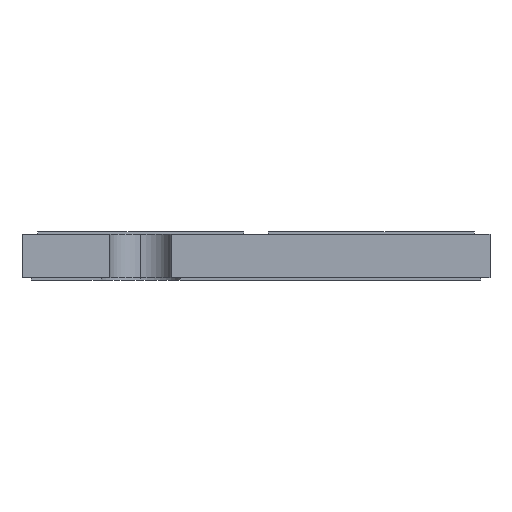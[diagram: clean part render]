
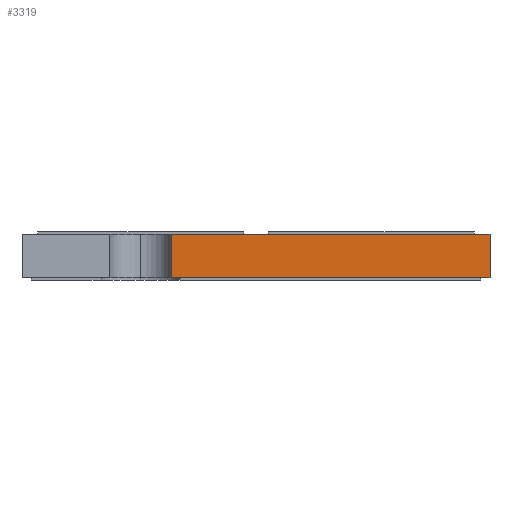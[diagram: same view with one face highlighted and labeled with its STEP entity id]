
A CAD part, left-side view. The second image highlights one B-rep face of the part: STEP entity #3319.
In plain terms, the highlighted planar face has unit normal (-1, 0, 0).
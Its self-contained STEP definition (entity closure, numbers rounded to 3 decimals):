
#84 = FACE_OUTER_BOUND ( 'NONE', #7691, .T. ) ;
#182 = CARTESIAN_POINT ( 'NONE',  ( -13.75, -3.75, -0.7 ) ) ;
#344 = CARTESIAN_POINT ( 'NONE',  ( -13.75, 3.75, -0.7 ) ) ;
#500 = VERTEX_POINT ( 'NONE', #7854 ) ;
#634 = VECTOR ( 'NONE', #4042, 1000. ) ;
#707 = VECTOR ( 'NONE', #2277, 1000. ) ;
#731 = LINE ( 'NONE', #182, #1483 ) ;
#1465 = ORIENTED_EDGE ( 'NONE', *, *, #7772, .F. ) ;
#1483 = VECTOR ( 'NONE', #6387, 1000. ) ;
#1536 = EDGE_CURVE ( 'NONE', #3447, #3954, #7231, .T. ) ;
#1610 = ORIENTED_EDGE ( 'NONE', *, *, #1536, .F. ) ;
#2277 = DIRECTION ( 'NONE',  ( 0., -1., 0. ) ) ;
#2536 = CARTESIAN_POINT ( 'NONE',  ( -13.75, 1.35, 0. ) ) ;
#2878 = CARTESIAN_POINT ( 'NONE',  ( -13.75, -3.75, -0.7 ) ) ;
#3064 = AXIS2_PLACEMENT_3D ( 'NONE', #7904, #3768, #8619 ) ;
#3319 = ADVANCED_FACE ( 'NONE', ( #84 ), #6556, .T. ) ;
#3447 = VERTEX_POINT ( 'NONE', #8711 ) ;
#3768 = DIRECTION ( 'NONE',  ( -1., 0., 0. ) ) ;
#3890 = EDGE_CURVE ( 'NONE', #3447, #7328, #5971, .T. ) ;
#3954 = VERTEX_POINT ( 'NONE', #8005 ) ;
#4042 = DIRECTION ( 'NONE',  ( 0., -1., 0. ) ) ;
#5942 = DIRECTION ( 'NONE',  ( 0., 0., 1. ) ) ;
#5971 = LINE ( 'NONE', #344, #707 ) ;
#5984 = CARTESIAN_POINT ( 'NONE',  ( -13.75, 3.75, 0. ) ) ;
#6387 = DIRECTION ( 'NONE',  ( 0., 0., 1. ) ) ;
#6556 = PLANE ( 'NONE',  #3064 ) ;
#6758 = ORIENTED_EDGE ( 'NONE', *, *, #3890, .T. ) ;
#6863 = LINE ( 'NONE', #5984, #634 ) ;
#7231 = LINE ( 'NONE', #2536, #8866 ) ;
#7328 = VERTEX_POINT ( 'NONE', #2878 ) ;
#7691 = EDGE_LOOP ( 'NONE', ( #1610, #6758, #8009, #1465 ) ) ;
#7772 = EDGE_CURVE ( 'NONE', #3954, #500, #6863, .T. ) ;
#7854 = CARTESIAN_POINT ( 'NONE',  ( -13.75, -3.75, 0. ) ) ;
#7904 = CARTESIAN_POINT ( 'NONE',  ( -13.75, 3.75, -0.7 ) ) ;
#8005 = CARTESIAN_POINT ( 'NONE',  ( -13.75, 1.35, 0. ) ) ;
#8009 = ORIENTED_EDGE ( 'NONE', *, *, #8519, .T. ) ;
#8519 = EDGE_CURVE ( 'NONE', #7328, #500, #731, .T. ) ;
#8619 = DIRECTION ( 'NONE',  ( 0., 0., 1. ) ) ;
#8711 = CARTESIAN_POINT ( 'NONE',  ( -13.75, 1.35, -0.7 ) ) ;
#8866 = VECTOR ( 'NONE', #5942, 1000. ) ;
